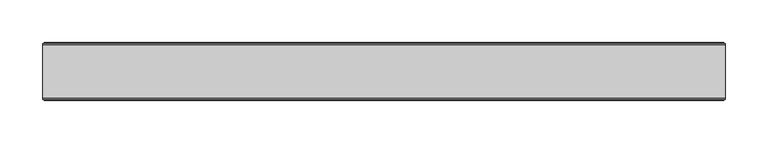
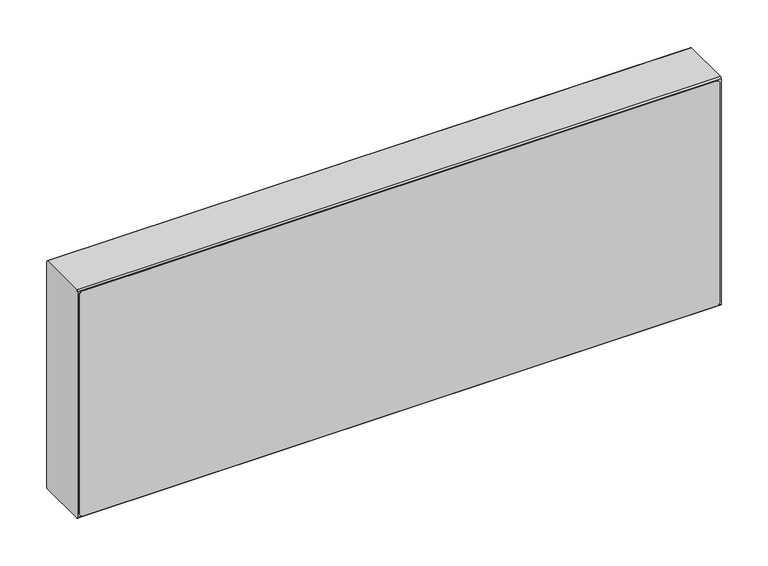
"""IFC4 building model written with IfcOpenShell, lengths in millimetres: proxy geometry, EVRA CV Д : 21-300-800."""

from ifc_helpers import new_model, si_unit, point, frame, frame_2d, origin, place, context, project, spatial, polyline, circle_curve, trimmed, segment, composite_curve, outline, extrude, source, transform, mapped, element, save


def mechanical_equipment_b2526e06(model_context):
    return source(origin(), model_context, "Body", "SweptSolid", [
        extrude(outline(composite_curve([segment(polyline([(398.0, 593.0), (398.0, -193.0)]), True, "CONTINUOUS"), segment(trimmed(circle_curve(frame_2d((393.0, -193.0)), 5.0), [point((398.0, -193.0))], [point((393.0, -198.0))], False, "CARTESIAN"), True, "CONTINUOUS"), segment(polyline([(393.0, -198.0), (107.0, -198.0)]), True, "CONTINUOUS"), segment(trimmed(circle_curve(frame_2d((107.0, -193.0)), 5.0), [point((107.0, -198.0))], [point((102.0, -193.0))], False, "CARTESIAN"), True, "CONTINUOUS"), segment(polyline([(102.0, -193.0), (102.0, 593.0)]), True, "CONTINUOUS"), segment(trimmed(circle_curve(frame_2d((107.0, 593.0)), 5.0), [point((102.0, 593.0))], [point((107.0, 598.0))], False, "CARTESIAN"), True, "CONTINUOUS"), segment(polyline([(107.0, 598.0), (393.0, 598.0)]), True, "CONTINUOUS"), segment(trimmed(circle_curve(frame_2d((393.0, 593.0)), 5.0), [point((393.0, 598.0))], [point((398.0, 593.0))], False, "CARTESIAN"), True, "CONTINUOUS")], self_intersect=False)), frame((0.0, 11.4631102, 0.0), z_axis=(0.0, 1.0, 0.0), x_axis=(0.0, 0.0, 1.0)), (0.0, 0.0, 1.0), 1.0),
        extrude(outline(composite_curve([segment(polyline([(398.0, 593.0), (398.0, -193.0)]), True, "CONTINUOUS"), segment(trimmed(circle_curve(frame_2d((393.0, -193.0)), 5.0), [point((398.0, -193.0))], [point((393.0, -198.0))], False, "CARTESIAN"), True, "CONTINUOUS"), segment(polyline([(393.0, -198.0), (107.0, -198.0)]), True, "CONTINUOUS"), segment(trimmed(circle_curve(frame_2d((107.0, -193.0)), 5.0), [point((107.0, -198.0))], [point((102.0, -193.0))], False, "CARTESIAN"), True, "CONTINUOUS"), segment(polyline([(102.0, -193.0), (102.0, 593.0)]), True, "CONTINUOUS"), segment(trimmed(circle_curve(frame_2d((107.0, 593.0)), 5.0), [point((102.0, 593.0))], [point((107.0, 598.0))], False, "CARTESIAN"), True, "CONTINUOUS"), segment(polyline([(107.0, 598.0), (393.0, 598.0)]), True, "CONTINUOUS"), segment(trimmed(circle_curve(frame_2d((393.0, 593.0)), 5.0), [point((393.0, 598.0))], [point((398.0, 593.0))], False, "CARTESIAN"), True, "CONTINUOUS")], self_intersect=False)), frame((0.0, -55.5368898, 0.0), z_axis=(0.0, 1.0, 0.0), x_axis=(0.0, 0.0, 1.0)), (0.0, 0.0, 1.0), 1.0),
        extrude(outline(composite_curve([segment(trimmed(circle_curve(frame_2d((9.4631102, 398.0)), 2.0), [point((9.4631102, 400.0))], [point((11.4631102, 398.0))], False, "CARTESIAN"), True, "CONTINUOUS"), segment(polyline([(11.4631102, 398.0), (11.4631102, 102.0)]), True, "CONTINUOUS"), segment(trimmed(circle_curve(frame_2d((9.4631102, 102.0)), 2.0), [point((11.4631102, 102.0))], [point((9.4631102, 100.0))], False, "CARTESIAN"), True, "CONTINUOUS"), segment(polyline([(9.4631102, 100.0), (-52.5368898, 100.0)]), True, "CONTINUOUS"), segment(trimmed(circle_curve(frame_2d((-52.5368898, 102.0)), 2.0), [point((-52.5368898, 100.0))], [point((-54.5368898, 102.0))], False, "CARTESIAN"), True, "CONTINUOUS"), segment(polyline([(-54.5368898, 102.0), (-54.5368898, 398.0)]), True, "CONTINUOUS"), segment(trimmed(circle_curve(frame_2d((-52.5368898, 398.0)), 2.0), [point((-54.5368898, 398.0))], [point((-52.5368898, 400.0))], False, "CARTESIAN"), True, "CONTINUOUS"), segment(polyline([(-52.5368898, 400.0), (9.4631102, 400.0)]), True, "CONTINUOUS")], self_intersect=False)), frame((-200.0, 0.0, 0.0), z_axis=(1.0, 0.0, 0.0), x_axis=(0.0, 1.0, 0.0)), (0.0, 0.0, 1.0), 800.0),
    ])


if __name__ == "__main__":
    model = new_model("IFC4")
    model_context = context("Model", 3, world=origin())
    ifc_project = project(units=[si_unit("LENGTHUNIT", "METRE", prefix="MILLI")], contexts=[model_context])
    site = spatial("IfcSite", under=ifc_project)
    building = spatial("IfcBuilding", under=site)
    placement = place(None, origin())
    mechanical_equipment_shape = mechanical_equipment_b2526e06(model_context)
    element("IfcBuildingElementProxy", 1, Name="EVRA CV Д : 21-300-800", ObjectType="EVRA CV Д : 21-300-800", at=placement, inside=building, context=model_context, shape_type="MappedRepresentation", body=[
        mapped(mechanical_equipment_shape, transform((0.0, 0.0, 0.0), x_axis=(1.0, 0.0, 0.0), y_axis=(0.0, 1.0, 0.0), z_axis=(0.0, 0.0, 1.0))),
    ])
    save(model, "model.ifc")
